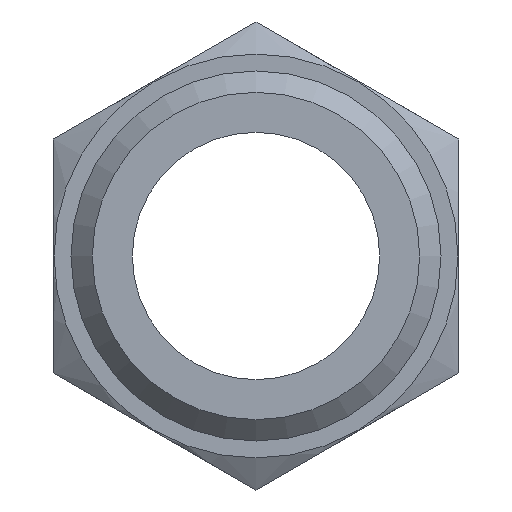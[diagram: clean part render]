
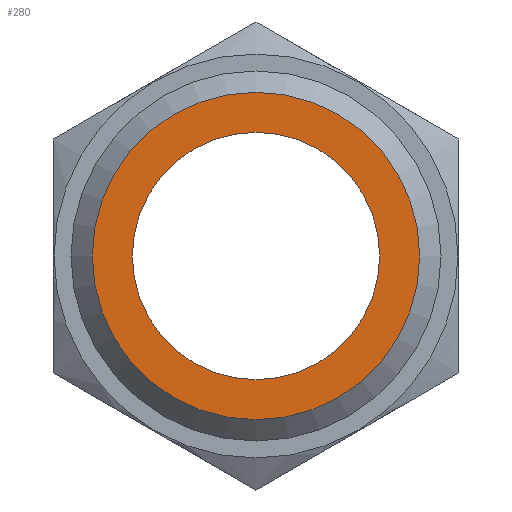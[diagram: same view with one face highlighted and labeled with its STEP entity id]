
A CAD part, front view. The second image highlights one B-rep face of the part: STEP entity #280.
In plain terms, the highlighted planar face has unit normal (0, -1, 0).
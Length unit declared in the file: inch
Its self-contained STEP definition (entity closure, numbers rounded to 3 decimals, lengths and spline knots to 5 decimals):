
#19=FACE_BOUND('',#70,.T.);
#28=CIRCLE('',#316,0.227);
#32=CIRCLE('',#322,0.1715);
#33=CIRCLE('',#323,0.1715);
#51=FACE_OUTER_BOUND('',#69,.T.);
#69=EDGE_LOOP('',(#228));
#70=EDGE_LOOP('',(#229,#230));
#134=VERTEX_POINT('',#487);
#138=VERTEX_POINT('',#499);
#139=VERTEX_POINT('',#500);
#168=EDGE_CURVE('',#134,#134,#28,.T.);
#174=EDGE_CURVE('',#138,#139,#32,.T.);
#175=EDGE_CURVE('',#139,#138,#33,.T.);
#228=ORIENTED_EDGE('',*,*,#168,.F.);
#229=ORIENTED_EDGE('',*,*,#174,.F.);
#230=ORIENTED_EDGE('',*,*,#175,.F.);
#266=PLANE('',#321);
#280=ADVANCED_FACE('',(#51,#19),#266,.T.);
#316=AXIS2_PLACEMENT_3D('',#488,#373,#374);
#321=AXIS2_PLACEMENT_3D('',#498,#385,#386);
#322=AXIS2_PLACEMENT_3D('',#501,#387,#388);
#323=AXIS2_PLACEMENT_3D('',#502,#389,#390);
#373=DIRECTION('center_axis',(0.,1.,0.));
#374=DIRECTION('ref_axis',(0.,0.,1.));
#385=DIRECTION('center_axis',(0.,-1.,0.));
#386=DIRECTION('ref_axis',(0.,0.,-1.));
#387=DIRECTION('center_axis',(0.,-1.,0.));
#388=DIRECTION('ref_axis',(1.,0.,0.));
#389=DIRECTION('center_axis',(0.,-1.,0.));
#390=DIRECTION('ref_axis',(1.,0.,0.));
#487=CARTESIAN_POINT('',(0.,0.,-0.227));
#488=CARTESIAN_POINT('Origin',(0.,0.,0.));
#498=CARTESIAN_POINT('Origin',(0.,0.,-0.1715));
#499=CARTESIAN_POINT('',(0.,0.,-0.1715));
#500=CARTESIAN_POINT('',(0.,0.,0.1715));
#501=CARTESIAN_POINT('Origin',(0.,0.,0.));
#502=CARTESIAN_POINT('Origin',(0.,0.,0.));
